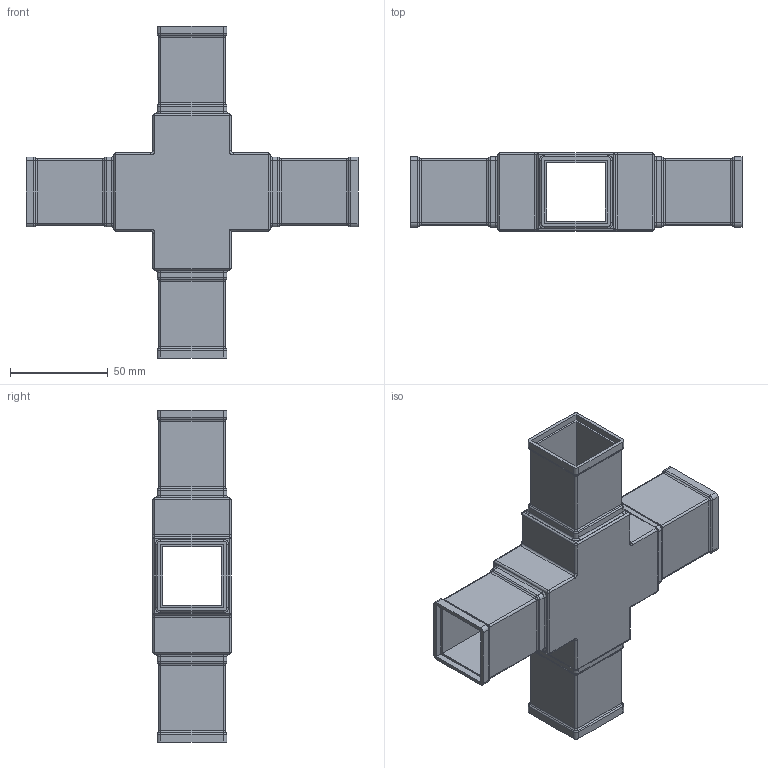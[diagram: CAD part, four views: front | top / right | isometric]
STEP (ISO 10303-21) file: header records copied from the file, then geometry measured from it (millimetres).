
FILE_DESCRIPTION (( 'STEP AP214' ), '1' );
FILE_NAME ('115.301.203.STEP', '2023-05-16T07:43:29', ( '' ), ( '' ), 'SwSTEP 2.0', 'SolidWorks 2021', '' );
FILE_SCHEMA (( 'AUTOMOTIVE_DESIGN' ));
Length unit declared in the file: millimetre
Products named in the file (1): 115.301.203
Bounding box: 170 x 40 x 170 mm (x, y, z)
Volume: 73689.7 mm3; surface area: 81544.6 mm2
Topology: 1 solids, 1 shells, 401 faces, 885 edges, 484 vertices
Faces by surface type: cylinder 163, plane 136, bspline 102
Entity records: 11868 total; most frequent: CARTESIAN_POINT 3405, DIRECTION 1799, ORIENTED_EDGE 1738, EDGE_CURVE 869, AXIS2_PLACEMENT_3D 654, LINE 491, VECTOR 491, VERTEX_POINT 484
